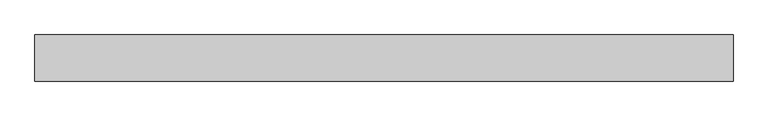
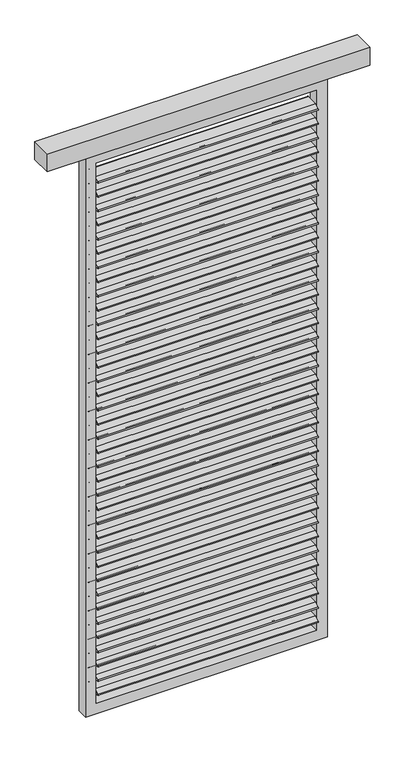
"""IFC4 building model written with IfcOpenShell, lengths in millimetres: proxy geometry."""

from ifc_helpers import new_model, si_unit, point, frame, frame_2d, origin, place, context, project, spatial, polyline, circle_curve, trimmed, segment, composite_curve, outline, extrude, source, transform, mapped, element, save


def generic_models_88b5154e(model_context):
    return source(origin(), model_context, "Body", "SweptSolid", [
        extrude(outline(polyline([(600.0, 46.0), (600.0, -34.0), (-600.0, -34.0), (-600.0, 46.0), (600.0, 46.0)])), frame((0.0, 0.0, 2250.0), z_axis=(0.0, 0.0, 1.0), x_axis=(1.0, 0.0, 0.0)), (0.0, 0.0, 1.0), 70.0),
        extrude(outline(composite_curve([segment(trimmed(circle_curve(frame_2d((30.8660408, 2150.5314678)), 3.0), [point((30.8136836, 2153.5310109))], [point((32.5436195, 2148.0443551))], False, "CARTESIAN"), True, "CONTINUOUS"), segment(polyline([(32.5436195, 2148.0443551), (17.3218392, 2137.7771346)]), True, "CONTINUOUS"), segment(trimmed(circle_curve(frame_2d((15.6442605, 2140.2642473)), 3.0), [point((17.3218392, 2137.7771346))], [point((15.6966177, 2137.2647043))], False, "CARTESIAN"), True, "CONTINUOUS"), segment(polyline([(15.6966177, 2137.2647043), (-28.3625539, 2136.4956486)]), True, "CONTINUOUS"), segment(trimmed(circle_curve(frame_2d((-28.4149111, 2139.4951916)), 3.0), [point((-28.3625539, 2136.4956486))], [point((-30.0924898, 2141.9823044))], False, "CARTESIAN"), True, "CONTINUOUS"), segment(polyline([(-30.0924898, 2141.9823044), (-14.1339931, 2152.7464463), (30.8136836, 2153.5310109)]), True, "CONTINUOUS")], self_intersect=False)), frame((-410.0, 0.0, 0.0), z_axis=(1.0, 0.0, 0.0), x_axis=(0.0, 1.0, 0.0)), (0.0, 0.0, 1.0), 820.0),
        extrude(outline(composite_curve([segment(trimmed(circle_curve(frame_2d((30.8660408, 2094.5594695)), 3.0), [point((30.8136836, 2097.5590126))], [point((32.5436195, 2092.0723568))], False, "CARTESIAN"), True, "CONTINUOUS"), segment(polyline([(32.5436195, 2092.0723568), (17.3218392, 2081.8051364)]), True, "CONTINUOUS"), segment(trimmed(circle_curve(frame_2d((15.6442605, 2084.2922491)), 3.0), [point((17.3218392, 2081.8051364))], [point((15.6966177, 2081.292706))], False, "CARTESIAN"), True, "CONTINUOUS"), segment(polyline([(15.6966177, 2081.292706), (-28.3625539, 2080.5236503)]), True, "CONTINUOUS"), segment(trimmed(circle_curve(frame_2d((-28.4149111, 2083.5231934)), 3.0), [point((-28.3625539, 2080.5236503))], [point((-30.0924898, 2086.0103061))], False, "CARTESIAN"), True, "CONTINUOUS"), segment(polyline([(-30.0924898, 2086.0103061), (-14.1339931, 2096.774448), (30.8136836, 2097.5590126)]), True, "CONTINUOUS")], self_intersect=False)), frame((-410.0, 0.0, 0.0), z_axis=(1.0, 0.0, 0.0), x_axis=(0.0, 1.0, 0.0)), (0.0, 0.0, 1.0), 820.0),
        extrude(outline(composite_curve([segment(trimmed(circle_curve(frame_2d((30.8660408, 2038.5874713)), 3.0), [point((30.8136836, 2041.5870144))], [point((32.5436195, 2036.1003586))], False, "CARTESIAN"), True, "CONTINUOUS"), segment(polyline([(32.5436195, 2036.1003586), (17.3218392, 2025.8331381)]), True, "CONTINUOUS"), segment(trimmed(circle_curve(frame_2d((15.6442605, 2028.3202508)), 3.0), [point((17.3218392, 2025.8331381))], [point((15.6966177, 2025.3207077))], False, "CARTESIAN"), True, "CONTINUOUS"), segment(polyline([(15.6966177, 2025.3207077), (-28.3625539, 2024.551652)]), True, "CONTINUOUS"), segment(trimmed(circle_curve(frame_2d((-28.4149111, 2027.5511951)), 3.0), [point((-28.3625539, 2024.551652))], [point((-30.0924898, 2030.0383078))], False, "CARTESIAN"), True, "CONTINUOUS"), segment(polyline([(-30.0924898, 2030.0383078), (-14.1339931, 2040.8024497), (30.8136836, 2041.5870144)]), True, "CONTINUOUS")], self_intersect=False)), frame((-410.0, 0.0, 0.0), z_axis=(1.0, 0.0, 0.0), x_axis=(0.0, 1.0, 0.0)), (0.0, 0.0, 1.0), 820.0),
        extrude(outline(composite_curve([segment(trimmed(circle_curve(frame_2d((30.8660408, 1982.615473)), 3.0), [point((30.8136836, 1985.6150161))], [point((32.5436195, 1980.1283603))], False, "CARTESIAN"), True, "CONTINUOUS"), segment(polyline([(32.5436195, 1980.1283603), (17.3218392, 1969.8611398)]), True, "CONTINUOUS"), segment(trimmed(circle_curve(frame_2d((15.6442605, 1972.3482526)), 3.0), [point((17.3218392, 1969.8611398))], [point((15.6966177, 1969.3487095))], False, "CARTESIAN"), True, "CONTINUOUS"), segment(polyline([(15.6966177, 1969.3487095), (-28.3625539, 1968.5796538)]), True, "CONTINUOUS"), segment(trimmed(circle_curve(frame_2d((-28.4149111, 1971.5791969)), 3.0), [point((-28.3625539, 1968.5796538))], [point((-30.0924898, 1974.0663096))], False, "CARTESIAN"), True, "CONTINUOUS"), segment(polyline([(-30.0924898, 1974.0663096), (-14.1339931, 1984.8304515), (30.8136836, 1985.6150161)]), True, "CONTINUOUS")], self_intersect=False)), frame((-410.0, 0.0, 0.0), z_axis=(1.0, 0.0, 0.0), x_axis=(0.0, 1.0, 0.0)), (0.0, 0.0, 1.0), 820.0),
        extrude(outline(composite_curve([segment(trimmed(circle_curve(frame_2d((30.8660408, 1926.6434747)), 3.0), [point((30.8136836, 1929.6430178))], [point((32.5436195, 1924.156362))], False, "CARTESIAN"), True, "CONTINUOUS"), segment(polyline([(32.5436195, 1924.156362), (17.3218392, 1913.8891416)]), True, "CONTINUOUS"), segment(trimmed(circle_curve(frame_2d((15.6442605, 1916.3762543)), 3.0), [point((17.3218392, 1913.8891416))], [point((15.6966177, 1913.3767112))], False, "CARTESIAN"), True, "CONTINUOUS"), segment(polyline([(15.6966177, 1913.3767112), (-28.3625539, 1912.6076555)]), True, "CONTINUOUS"), segment(trimmed(circle_curve(frame_2d((-28.4149111, 1915.6071986)), 3.0), [point((-28.3625539, 1912.6076555))], [point((-30.0924898, 1918.0943113))], False, "CARTESIAN"), True, "CONTINUOUS"), segment(polyline([(-30.0924898, 1918.0943113), (-14.1339931, 1928.8584532), (30.8136836, 1929.6430178)]), True, "CONTINUOUS")], self_intersect=False)), frame((-410.0, 0.0, 0.0), z_axis=(1.0, 0.0, 0.0), x_axis=(0.0, 1.0, 0.0)), (0.0, 0.0, 1.0), 820.0),
        extrude(outline(composite_curve([segment(trimmed(circle_curve(frame_2d((30.8660408, 1870.6714765)), 3.0), [point((30.8136836, 1873.6710196))], [point((32.5436195, 1868.1843638))], False, "CARTESIAN"), True, "CONTINUOUS"), segment(polyline([(32.5436195, 1868.1843638), (17.3218392, 1857.9171433)]), True, "CONTINUOUS"), segment(trimmed(circle_curve(frame_2d((15.6442605, 1860.404256)), 3.0), [point((17.3218392, 1857.9171433))], [point((15.6966177, 1857.404713))], False, "CARTESIAN"), True, "CONTINUOUS"), segment(polyline([(15.6966177, 1857.404713), (-28.3625539, 1856.6356573)]), True, "CONTINUOUS"), segment(trimmed(circle_curve(frame_2d((-28.4149111, 1859.6352003)), 3.0), [point((-28.3625539, 1856.6356573))], [point((-30.0924898, 1862.1223131))], False, "CARTESIAN"), True, "CONTINUOUS"), segment(polyline([(-30.0924898, 1862.1223131), (-14.1339931, 1872.886455), (30.8136836, 1873.6710196)]), True, "CONTINUOUS")], self_intersect=False)), frame((-410.0, 0.0, 0.0), z_axis=(1.0, 0.0, 0.0), x_axis=(0.0, 1.0, 0.0)), (0.0, 0.0, 1.0), 820.0),
        extrude(outline(composite_curve([segment(trimmed(circle_curve(frame_2d((30.8660408, 1814.6994782)), 3.0), [point((30.8136836, 1817.6990213))], [point((32.5436195, 1812.2123655))], False, "CARTESIAN"), True, "CONTINUOUS"), segment(polyline([(32.5436195, 1812.2123655), (17.3218392, 1801.9451451)]), True, "CONTINUOUS"), segment(trimmed(circle_curve(frame_2d((15.6442605, 1804.4322578)), 3.0), [point((17.3218392, 1801.9451451))], [point((15.6966177, 1801.4327147))], False, "CARTESIAN"), True, "CONTINUOUS"), segment(polyline([(15.6966177, 1801.4327147), (-28.3625539, 1800.663659)]), True, "CONTINUOUS"), segment(trimmed(circle_curve(frame_2d((-28.4149111, 1803.6632021)), 3.0), [point((-28.3625539, 1800.663659))], [point((-30.0924898, 1806.1503148))], False, "CARTESIAN"), True, "CONTINUOUS"), segment(polyline([(-30.0924898, 1806.1503148), (-14.1339931, 1816.9144567), (30.8136836, 1817.6990213)]), True, "CONTINUOUS")], self_intersect=False)), frame((-410.0, 0.0, 0.0), z_axis=(1.0, 0.0, 0.0), x_axis=(0.0, 1.0, 0.0)), (0.0, 0.0, 1.0), 820.0),
        extrude(outline(composite_curve([segment(trimmed(circle_curve(frame_2d((30.8660408, 1758.72748)), 3.0), [point((30.8136836, 1761.727023))], [point((32.5436195, 1756.2403672))], False, "CARTESIAN"), True, "CONTINUOUS"), segment(polyline([(32.5436195, 1756.2403672), (17.3218392, 1745.9731468)]), True, "CONTINUOUS"), segment(trimmed(circle_curve(frame_2d((15.6442605, 1748.4602595)), 3.0), [point((17.3218392, 1745.9731468))], [point((15.6966177, 1745.4607164))], False, "CARTESIAN"), True, "CONTINUOUS"), segment(polyline([(15.6966177, 1745.4607164), (-28.3625539, 1744.6916607)]), True, "CONTINUOUS"), segment(trimmed(circle_curve(frame_2d((-28.4149111, 1747.6912038)), 3.0), [point((-28.3625539, 1744.6916607))], [point((-30.0924898, 1750.1783165))], False, "CARTESIAN"), True, "CONTINUOUS"), segment(polyline([(-30.0924898, 1750.1783165), (-14.1339931, 1760.9424584), (30.8136836, 1761.727023)]), True, "CONTINUOUS")], self_intersect=False)), frame((-410.0, 0.0, 0.0), z_axis=(1.0, 0.0, 0.0), x_axis=(0.0, 1.0, 0.0)), (0.0, 0.0, 1.0), 820.0),
        extrude(outline(composite_curve([segment(trimmed(circle_curve(frame_2d((30.8660408, 1702.7554817)), 3.0), [point((30.8136836, 1705.7550248))], [point((32.5436195, 1700.268369))], False, "CARTESIAN"), True, "CONTINUOUS"), segment(polyline([(32.5436195, 1700.268369), (17.3218392, 1690.0011485)]), True, "CONTINUOUS"), segment(trimmed(circle_curve(frame_2d((15.6442605, 1692.4882613)), 3.0), [point((17.3218392, 1690.0011485))], [point((15.6966177, 1689.4887182))], False, "CARTESIAN"), True, "CONTINUOUS"), segment(polyline([(15.6966177, 1689.4887182), (-28.3625539, 1688.7196625)]), True, "CONTINUOUS"), segment(trimmed(circle_curve(frame_2d((-28.4149111, 1691.7192056)), 3.0), [point((-28.3625539, 1688.7196625))], [point((-30.0924898, 1694.2063183))], False, "CARTESIAN"), True, "CONTINUOUS"), segment(polyline([(-30.0924898, 1694.2063183), (-14.1339931, 1704.9704602), (30.8136836, 1705.7550248)]), True, "CONTINUOUS")], self_intersect=False)), frame((-410.0, 0.0, 0.0), z_axis=(1.0, 0.0, 0.0), x_axis=(0.0, 1.0, 0.0)), (0.0, 0.0, 1.0), 820.0),
        extrude(outline(composite_curve([segment(trimmed(circle_curve(frame_2d((30.8660408, 1646.7834834)), 3.0), [point((30.8136836, 1649.7830265))], [point((32.5436195, 1644.2963707))], False, "CARTESIAN"), True, "CONTINUOUS"), segment(polyline([(32.5436195, 1644.2963707), (17.3218392, 1634.0291503)]), True, "CONTINUOUS"), segment(trimmed(circle_curve(frame_2d((15.6442605, 1636.516263)), 3.0), [point((17.3218392, 1634.0291503))], [point((15.6966177, 1633.5167199))], False, "CARTESIAN"), True, "CONTINUOUS"), segment(polyline([(15.6966177, 1633.5167199), (-28.3625539, 1632.7476642)]), True, "CONTINUOUS"), segment(trimmed(circle_curve(frame_2d((-28.4149111, 1635.7472073)), 3.0), [point((-28.3625539, 1632.7476642))], [point((-30.0924898, 1638.23432))], False, "CARTESIAN"), True, "CONTINUOUS"), segment(polyline([(-30.0924898, 1638.23432), (-14.1339931, 1648.9984619), (30.8136836, 1649.7830265)]), True, "CONTINUOUS")], self_intersect=False)), frame((-410.0, 0.0, 0.0), z_axis=(1.0, 0.0, 0.0), x_axis=(0.0, 1.0, 0.0)), (0.0, 0.0, 1.0), 820.0),
        extrude(outline(composite_curve([segment(trimmed(circle_curve(frame_2d((30.8660408, 1590.8114852)), 3.0), [point((30.8136836, 1593.8110283))], [point((32.5436195, 1588.3243725))], False, "CARTESIAN"), True, "CONTINUOUS"), segment(polyline([(32.5436195, 1588.3243725), (17.3218392, 1578.057152)]), True, "CONTINUOUS"), segment(trimmed(circle_curve(frame_2d((15.6442605, 1580.5442647)), 3.0), [point((17.3218392, 1578.057152))], [point((15.6966177, 1577.5447216))], False, "CARTESIAN"), True, "CONTINUOUS"), segment(polyline([(15.6966177, 1577.5447216), (-28.3625539, 1576.7756659)]), True, "CONTINUOUS"), segment(trimmed(circle_curve(frame_2d((-28.4149111, 1579.775209)), 3.0), [point((-28.3625539, 1576.7756659))], [point((-30.0924898, 1582.2623218))], False, "CARTESIAN"), True, "CONTINUOUS"), segment(polyline([(-30.0924898, 1582.2623218), (-14.1339931, 1593.0264636), (30.8136836, 1593.8110283)]), True, "CONTINUOUS")], self_intersect=False)), frame((-410.0, 0.0, 0.0), z_axis=(1.0, 0.0, 0.0), x_axis=(0.0, 1.0, 0.0)), (0.0, 0.0, 1.0), 820.0),
        extrude(outline(composite_curve([segment(trimmed(circle_curve(frame_2d((30.8660408, 1534.8394869)), 3.0), [point((30.8136836, 1537.83903))], [point((32.5436195, 1532.3523742))], False, "CARTESIAN"), True, "CONTINUOUS"), segment(polyline([(32.5436195, 1532.3523742), (17.3218392, 1522.0851538)]), True, "CONTINUOUS"), segment(trimmed(circle_curve(frame_2d((15.6442605, 1524.5722665)), 3.0), [point((17.3218392, 1522.0851538))], [point((15.6966177, 1521.5727234))], False, "CARTESIAN"), True, "CONTINUOUS"), segment(polyline([(15.6966177, 1521.5727234), (-28.3625539, 1520.8036677)]), True, "CONTINUOUS"), segment(trimmed(circle_curve(frame_2d((-28.4149111, 1523.8032108)), 3.0), [point((-28.3625539, 1520.8036677))], [point((-30.0924898, 1526.2903235))], False, "CARTESIAN"), True, "CONTINUOUS"), segment(polyline([(-30.0924898, 1526.2903235), (-14.1339931, 1537.0544654), (30.8136836, 1537.83903)]), True, "CONTINUOUS")], self_intersect=False)), frame((-410.0, 0.0, 0.0), z_axis=(1.0, 0.0, 0.0), x_axis=(0.0, 1.0, 0.0)), (0.0, 0.0, 1.0), 820.0),
        extrude(outline(composite_curve([segment(trimmed(circle_curve(frame_2d((30.8660408, 1478.8674887)), 3.0), [point((30.8136836, 1481.8670317))], [point((32.5436195, 1476.3803759))], False, "CARTESIAN"), True, "CONTINUOUS"), segment(polyline([(32.5436195, 1476.3803759), (17.3218392, 1466.1131555)]), True, "CONTINUOUS"), segment(trimmed(circle_curve(frame_2d((15.6442605, 1468.6002682)), 3.0), [point((17.3218392, 1466.1131555))], [point((15.6966177, 1465.6007251))], False, "CARTESIAN"), True, "CONTINUOUS"), segment(polyline([(15.6966177, 1465.6007251), (-28.3625539, 1464.8316694)]), True, "CONTINUOUS"), segment(trimmed(circle_curve(frame_2d((-28.4149111, 1467.8312125)), 3.0), [point((-28.3625539, 1464.8316694))], [point((-30.0924898, 1470.3183252))], False, "CARTESIAN"), True, "CONTINUOUS"), segment(polyline([(-30.0924898, 1470.3183252), (-14.1339931, 1481.0824671), (30.8136836, 1481.8670317)]), True, "CONTINUOUS")], self_intersect=False)), frame((-410.0, 0.0, 0.0), z_axis=(1.0, 0.0, 0.0), x_axis=(0.0, 1.0, 0.0)), (0.0, 0.0, 1.0), 820.0),
        extrude(outline(composite_curve([segment(trimmed(circle_curve(frame_2d((30.8660408, 1422.8954904)), 3.0), [point((30.8136836, 1425.8950335))], [point((32.5436195, 1420.4083777))], False, "CARTESIAN"), True, "CONTINUOUS"), segment(polyline([(32.5436195, 1420.4083777), (17.3218392, 1410.1411572)]), True, "CONTINUOUS"), segment(trimmed(circle_curve(frame_2d((15.6442605, 1412.62827)), 3.0), [point((17.3218392, 1410.1411572))], [point((15.6966177, 1409.6287269))], False, "CARTESIAN"), True, "CONTINUOUS"), segment(polyline([(15.6966177, 1409.6287269), (-28.3625539, 1408.8596712)]), True, "CONTINUOUS"), segment(trimmed(circle_curve(frame_2d((-28.4149111, 1411.8592143)), 3.0), [point((-28.3625539, 1408.8596712))], [point((-30.0924898, 1414.346327))], False, "CARTESIAN"), True, "CONTINUOUS"), segment(polyline([(-30.0924898, 1414.346327), (-14.1339931, 1425.1104689), (30.8136836, 1425.8950335)]), True, "CONTINUOUS")], self_intersect=False)), frame((-410.0, 0.0, 0.0), z_axis=(1.0, 0.0, 0.0), x_axis=(0.0, 1.0, 0.0)), (0.0, 0.0, 1.0), 820.0),
        extrude(outline(composite_curve([segment(trimmed(circle_curve(frame_2d((30.8660408, 1366.9234921)), 3.0), [point((30.8136836, 1369.9230352))], [point((32.5436195, 1364.4363794))], False, "CARTESIAN"), True, "CONTINUOUS"), segment(polyline([(32.5436195, 1364.4363794), (17.3218392, 1354.169159)]), True, "CONTINUOUS"), segment(trimmed(circle_curve(frame_2d((15.6442605, 1356.6562717)), 3.0), [point((17.3218392, 1354.169159))], [point((15.6966177, 1353.6567286))], False, "CARTESIAN"), True, "CONTINUOUS"), segment(polyline([(15.6966177, 1353.6567286), (-28.3625539, 1352.8876729)]), True, "CONTINUOUS"), segment(trimmed(circle_curve(frame_2d((-28.4149111, 1355.887216)), 3.0), [point((-28.3625539, 1352.8876729))], [point((-30.0924898, 1358.3743287))], False, "CARTESIAN"), True, "CONTINUOUS"), segment(polyline([(-30.0924898, 1358.3743287), (-14.1339931, 1369.1384706), (30.8136836, 1369.9230352)]), True, "CONTINUOUS")], self_intersect=False)), frame((-410.0, 0.0, 0.0), z_axis=(1.0, 0.0, 0.0), x_axis=(0.0, 1.0, 0.0)), (0.0, 0.0, 1.0), 820.0),
        extrude(outline(composite_curve([segment(trimmed(circle_curve(frame_2d((30.8660408, 1310.9514939)), 3.0), [point((30.8136836, 1313.951037))], [point((32.5436195, 1308.4643812))], False, "CARTESIAN"), True, "CONTINUOUS"), segment(polyline([(32.5436195, 1308.4643812), (17.3218392, 1298.1971607)]), True, "CONTINUOUS"), segment(trimmed(circle_curve(frame_2d((15.6442605, 1300.6842734)), 3.0), [point((17.3218392, 1298.1971607))], [point((15.6966177, 1297.6847303))], False, "CARTESIAN"), True, "CONTINUOUS"), segment(polyline([(15.6966177, 1297.6847303), (-28.3625539, 1296.9156746)]), True, "CONTINUOUS"), segment(trimmed(circle_curve(frame_2d((-28.4149111, 1299.9152177)), 3.0), [point((-28.3625539, 1296.9156746))], [point((-30.0924898, 1302.4023304))], False, "CARTESIAN"), True, "CONTINUOUS"), segment(polyline([(-30.0924898, 1302.4023304), (-14.1339931, 1313.1664723), (30.8136836, 1313.951037)]), True, "CONTINUOUS")], self_intersect=False)), frame((-410.0, 0.0, 0.0), z_axis=(1.0, 0.0, 0.0), x_axis=(0.0, 1.0, 0.0)), (0.0, 0.0, 1.0), 820.0),
        extrude(outline(composite_curve([segment(trimmed(circle_curve(frame_2d((30.8660408, 1254.9794956)), 3.0), [point((30.8136836, 1257.9790387))], [point((32.5436195, 1252.4923829))], False, "CARTESIAN"), True, "CONTINUOUS"), segment(polyline([(32.5436195, 1252.4923829), (17.3218392, 1242.2251625)]), True, "CONTINUOUS"), segment(trimmed(circle_curve(frame_2d((15.6442605, 1244.7122752)), 3.0), [point((17.3218392, 1242.2251625))], [point((15.6966177, 1241.7127321))], False, "CARTESIAN"), True, "CONTINUOUS"), segment(polyline([(15.6966177, 1241.7127321), (-28.3625539, 1240.9436764)]), True, "CONTINUOUS"), segment(trimmed(circle_curve(frame_2d((-28.4149111, 1243.9432195)), 3.0), [point((-28.3625539, 1240.9436764))], [point((-30.0924898, 1246.4303322))], False, "CARTESIAN"), True, "CONTINUOUS"), segment(polyline([(-30.0924898, 1246.4303322), (-14.1339931, 1257.1944741), (30.8136836, 1257.9790387)]), True, "CONTINUOUS")], self_intersect=False)), frame((-410.0, 0.0, 0.0), z_axis=(1.0, 0.0, 0.0), x_axis=(0.0, 1.0, 0.0)), (0.0, 0.0, 1.0), 820.0),
        extrude(outline(composite_curve([segment(trimmed(circle_curve(frame_2d((30.8660408, 1199.0074974)), 3.0), [point((30.8136836, 1202.0070404))], [point((32.5436195, 1196.5203846))], False, "CARTESIAN"), True, "CONTINUOUS"), segment(polyline([(32.5436195, 1196.5203846), (17.3218392, 1186.2531642)]), True, "CONTINUOUS"), segment(trimmed(circle_curve(frame_2d((15.6442605, 1188.7402769)), 3.0), [point((17.3218392, 1186.2531642))], [point((15.6966177, 1185.7407338))], False, "CARTESIAN"), True, "CONTINUOUS"), segment(polyline([(15.6966177, 1185.7407338), (-28.3625539, 1184.9716781)]), True, "CONTINUOUS"), segment(trimmed(circle_curve(frame_2d((-28.4149111, 1187.9712212)), 3.0), [point((-28.3625539, 1184.9716781))], [point((-30.0924898, 1190.4583339))], False, "CARTESIAN"), True, "CONTINUOUS"), segment(polyline([(-30.0924898, 1190.4583339), (-14.1339931, 1201.2224758), (30.8136836, 1202.0070404)]), True, "CONTINUOUS")], self_intersect=False)), frame((-410.0, 0.0, 0.0), z_axis=(1.0, 0.0, 0.0), x_axis=(0.0, 1.0, 0.0)), (0.0, 0.0, 1.0), 820.0),
        extrude(outline(composite_curve([segment(trimmed(circle_curve(frame_2d((30.8660408, 1143.0354991)), 3.0), [point((30.8136836, 1146.0350422))], [point((32.5436195, 1140.5483864))], False, "CARTESIAN"), True, "CONTINUOUS"), segment(polyline([(32.5436195, 1140.5483864), (17.3218392, 1130.2811659)]), True, "CONTINUOUS"), segment(trimmed(circle_curve(frame_2d((15.6442605, 1132.7682786)), 3.0), [point((17.3218392, 1130.2811659))], [point((15.6966177, 1129.7687356))], False, "CARTESIAN"), True, "CONTINUOUS"), segment(polyline([(15.6966177, 1129.7687356), (-28.3625539, 1128.9996799)]), True, "CONTINUOUS"), segment(trimmed(circle_curve(frame_2d((-28.4149111, 1131.9992229)), 3.0), [point((-28.3625539, 1128.9996799))], [point((-30.0924898, 1134.4863357))], False, "CARTESIAN"), True, "CONTINUOUS"), segment(polyline([(-30.0924898, 1134.4863357), (-14.1339931, 1145.2504776), (30.8136836, 1146.0350422)]), True, "CONTINUOUS")], self_intersect=False)), frame((-410.0, 0.0, 0.0), z_axis=(1.0, 0.0, 0.0), x_axis=(0.0, 1.0, 0.0)), (0.0, 0.0, 1.0), 820.0),
        extrude(outline(composite_curve([segment(trimmed(circle_curve(frame_2d((30.8660408, 1087.0635008)), 3.0), [point((30.8136836, 1090.0630439))], [point((32.5436195, 1084.5763881))], False, "CARTESIAN"), True, "CONTINUOUS"), segment(polyline([(32.5436195, 1084.5763881), (17.3218392, 1074.3091677)]), True, "CONTINUOUS"), segment(trimmed(circle_curve(frame_2d((15.6442605, 1076.7962804)), 3.0), [point((17.3218392, 1074.3091677))], [point((15.6966177, 1073.7967373))], False, "CARTESIAN"), True, "CONTINUOUS"), segment(polyline([(15.6966177, 1073.7967373), (-28.3625539, 1073.0276816)]), True, "CONTINUOUS"), segment(trimmed(circle_curve(frame_2d((-28.4149111, 1076.0272247)), 3.0), [point((-28.3625539, 1073.0276816))], [point((-30.0924898, 1078.5143374))], False, "CARTESIAN"), True, "CONTINUOUS"), segment(polyline([(-30.0924898, 1078.5143374), (-14.1339931, 1089.2784793), (30.8136836, 1090.0630439)]), True, "CONTINUOUS")], self_intersect=False)), frame((-410.0, 0.0, 0.0), z_axis=(1.0, 0.0, 0.0), x_axis=(0.0, 1.0, 0.0)), (0.0, 0.0, 1.0), 820.0),
        extrude(outline(composite_curve([segment(trimmed(circle_curve(frame_2d((30.8660408, 1031.0915026)), 3.0), [point((30.8136836, 1034.0910457))], [point((32.5436195, 1028.6043898))], False, "CARTESIAN"), True, "CONTINUOUS"), segment(polyline([(32.5436195, 1028.6043898), (17.3218392, 1018.3371694)]), True, "CONTINUOUS"), segment(trimmed(circle_curve(frame_2d((15.6442605, 1020.8242821)), 3.0), [point((17.3218392, 1018.3371694))], [point((15.6966177, 1017.824739))], False, "CARTESIAN"), True, "CONTINUOUS"), segment(polyline([(15.6966177, 1017.824739), (-28.3625539, 1017.0556833)]), True, "CONTINUOUS"), segment(trimmed(circle_curve(frame_2d((-28.4149111, 1020.0552264)), 3.0), [point((-28.3625539, 1017.0556833))], [point((-30.0924898, 1022.5423391))], False, "CARTESIAN"), True, "CONTINUOUS"), segment(polyline([(-30.0924898, 1022.5423391), (-14.1339931, 1033.306481), (30.8136836, 1034.0910457)]), True, "CONTINUOUS")], self_intersect=False)), frame((-410.0, 0.0, 0.0), z_axis=(1.0, 0.0, 0.0), x_axis=(0.0, 1.0, 0.0)), (0.0, 0.0, 1.0), 820.0),
        extrude(outline(composite_curve([segment(trimmed(circle_curve(frame_2d((30.8660408, 975.1195043)), 3.0), [point((30.8136836, 978.1190474))], [point((32.5436195, 972.6323916))], False, "CARTESIAN"), True, "CONTINUOUS"), segment(polyline([(32.5436195, 972.6323916), (17.3218392, 962.3651711)]), True, "CONTINUOUS"), segment(trimmed(circle_curve(frame_2d((15.6442605, 964.8522839)), 3.0), [point((17.3218392, 962.3651711))], [point((15.6966177, 961.8527408))], False, "CARTESIAN"), True, "CONTINUOUS"), segment(polyline([(15.6966177, 961.8527408), (-28.3625539, 961.0836851)]), True, "CONTINUOUS"), segment(trimmed(circle_curve(frame_2d((-28.4149111, 964.0832282)), 3.0), [point((-28.3625539, 961.0836851))], [point((-30.0924898, 966.5703409))], False, "CARTESIAN"), True, "CONTINUOUS"), segment(polyline([(-30.0924898, 966.5703409), (-14.1339931, 977.3344828), (30.8136836, 978.1190474)]), True, "CONTINUOUS")], self_intersect=False)), frame((-410.0, 0.0, 0.0), z_axis=(1.0, 0.0, 0.0), x_axis=(0.0, 1.0, 0.0)), (0.0, 0.0, 1.0), 820.0),
        extrude(outline(composite_curve([segment(trimmed(circle_curve(frame_2d((30.8660408, 919.147506)), 3.0), [point((30.8136836, 922.1470491))], [point((32.5436195, 916.6603933))], False, "CARTESIAN"), True, "CONTINUOUS"), segment(polyline([(32.5436195, 916.6603933), (17.3218392, 906.3931729)]), True, "CONTINUOUS"), segment(trimmed(circle_curve(frame_2d((15.6442605, 908.8802856)), 3.0), [point((17.3218392, 906.3931729))], [point((15.6966177, 905.8807425))], False, "CARTESIAN"), True, "CONTINUOUS"), segment(polyline([(15.6966177, 905.8807425), (-28.3625539, 905.1116868)]), True, "CONTINUOUS"), segment(trimmed(circle_curve(frame_2d((-28.4149111, 908.1112299)), 3.0), [point((-28.3625539, 905.1116868))], [point((-30.0924898, 910.5983426))], False, "CARTESIAN"), True, "CONTINUOUS"), segment(polyline([(-30.0924898, 910.5983426), (-14.1339931, 921.3624845), (30.8136836, 922.1470491)]), True, "CONTINUOUS")], self_intersect=False)), frame((-410.0, 0.0, 0.0), z_axis=(1.0, 0.0, 0.0), x_axis=(0.0, 1.0, 0.0)), (0.0, 0.0, 1.0), 820.0),
        extrude(outline(composite_curve([segment(trimmed(circle_curve(frame_2d((30.8660408, 863.1755078)), 3.0), [point((30.8136836, 866.1750509))], [point((32.5436195, 860.6883951))], False, "CARTESIAN"), True, "CONTINUOUS"), segment(polyline([(32.5436195, 860.6883951), (17.3218392, 850.4211746)]), True, "CONTINUOUS"), segment(trimmed(circle_curve(frame_2d((15.6442605, 852.9082873)), 3.0), [point((17.3218392, 850.4211746))], [point((15.6966177, 849.9087443))], False, "CARTESIAN"), True, "CONTINUOUS"), segment(polyline([(15.6966177, 849.9087443), (-28.3625539, 849.1396886)]), True, "CONTINUOUS"), segment(trimmed(circle_curve(frame_2d((-28.4149111, 852.1392316)), 3.0), [point((-28.3625539, 849.1396886))], [point((-30.0924898, 854.6263444))], False, "CARTESIAN"), True, "CONTINUOUS"), segment(polyline([(-30.0924898, 854.6263444), (-14.1339931, 865.3904863), (30.8136836, 866.1750509)]), True, "CONTINUOUS")], self_intersect=False)), frame((-410.0, 0.0, 0.0), z_axis=(1.0, 0.0, 0.0), x_axis=(0.0, 1.0, 0.0)), (0.0, 0.0, 1.0), 820.0),
        extrude(outline(composite_curve([segment(trimmed(circle_curve(frame_2d((30.8660408, 807.2035095)), 3.0), [point((30.8136836, 810.2030526))], [point((32.5436195, 804.7163968))], False, "CARTESIAN"), True, "CONTINUOUS"), segment(polyline([(32.5436195, 804.7163968), (17.3218392, 794.4491764)]), True, "CONTINUOUS"), segment(trimmed(circle_curve(frame_2d((15.6442605, 796.9362891)), 3.0), [point((17.3218392, 794.4491764))], [point((15.6966177, 793.936746))], False, "CARTESIAN"), True, "CONTINUOUS"), segment(polyline([(15.6966177, 793.936746), (-28.3625539, 793.1676903)]), True, "CONTINUOUS"), segment(trimmed(circle_curve(frame_2d((-28.4149111, 796.1672334)), 3.0), [point((-28.3625539, 793.1676903))], [point((-30.0924898, 798.6543461))], False, "CARTESIAN"), True, "CONTINUOUS"), segment(polyline([(-30.0924898, 798.6543461), (-14.1339931, 809.418488), (30.8136836, 810.2030526)]), True, "CONTINUOUS")], self_intersect=False)), frame((-410.0, 0.0, 0.0), z_axis=(1.0, 0.0, 0.0), x_axis=(0.0, 1.0, 0.0)), (0.0, 0.0, 1.0), 820.0),
        extrude(outline(composite_curve([segment(trimmed(circle_curve(frame_2d((30.8660408, 751.2315113)), 3.0), [point((30.8136836, 754.2310543))], [point((32.5436195, 748.7443985))], False, "CARTESIAN"), True, "CONTINUOUS"), segment(polyline([(32.5436195, 748.7443985), (17.3218392, 738.4771781)]), True, "CONTINUOUS"), segment(trimmed(circle_curve(frame_2d((15.6442605, 740.9642908)), 3.0), [point((17.3218392, 738.4771781))], [point((15.6966177, 737.9647477))], False, "CARTESIAN"), True, "CONTINUOUS"), segment(polyline([(15.6966177, 737.9647477), (-28.3625539, 737.195692)]), True, "CONTINUOUS"), segment(trimmed(circle_curve(frame_2d((-28.4149111, 740.1952351)), 3.0), [point((-28.3625539, 737.195692))], [point((-30.0924898, 742.6823478))], False, "CARTESIAN"), True, "CONTINUOUS"), segment(polyline([(-30.0924898, 742.6823478), (-14.1339931, 753.4464897), (30.8136836, 754.2310543)]), True, "CONTINUOUS")], self_intersect=False)), frame((-410.0, 0.0, 0.0), z_axis=(1.0, 0.0, 0.0), x_axis=(0.0, 1.0, 0.0)), (0.0, 0.0, 1.0), 820.0),
        extrude(outline(composite_curve([segment(trimmed(circle_curve(frame_2d((30.8660408, 695.259513)), 3.0), [point((30.8136836, 698.2590561))], [point((32.5436195, 692.7724003))], False, "CARTESIAN"), True, "CONTINUOUS"), segment(polyline([(32.5436195, 692.7724003), (17.3218392, 682.5051798)]), True, "CONTINUOUS"), segment(trimmed(circle_curve(frame_2d((15.6442605, 684.9922926)), 3.0), [point((17.3218392, 682.5051798))], [point((15.6966177, 681.9927495))], False, "CARTESIAN"), True, "CONTINUOUS"), segment(polyline([(15.6966177, 681.9927495), (-28.3625539, 681.2236938)]), True, "CONTINUOUS"), segment(trimmed(circle_curve(frame_2d((-28.4149111, 684.2232369)), 3.0), [point((-28.3625539, 681.2236938))], [point((-30.0924898, 686.7103496))], False, "CARTESIAN"), True, "CONTINUOUS"), segment(polyline([(-30.0924898, 686.7103496), (-14.1339931, 697.4744915), (30.8136836, 698.2590561)]), True, "CONTINUOUS")], self_intersect=False)), frame((-410.0, 0.0, 0.0), z_axis=(1.0, 0.0, 0.0), x_axis=(0.0, 1.0, 0.0)), (0.0, 0.0, 1.0), 820.0),
        extrude(outline(composite_curve([segment(trimmed(circle_curve(frame_2d((30.8660408, 639.2875147)), 3.0), [point((30.8136836, 642.2870578))], [point((32.5436195, 636.800402))], False, "CARTESIAN"), True, "CONTINUOUS"), segment(polyline([(32.5436195, 636.800402), (17.3218392, 626.5331816)]), True, "CONTINUOUS"), segment(trimmed(circle_curve(frame_2d((15.6442605, 629.0202943)), 3.0), [point((17.3218392, 626.5331816))], [point((15.6966177, 626.0207512))], False, "CARTESIAN"), True, "CONTINUOUS"), segment(polyline([(15.6966177, 626.0207512), (-28.3625539, 625.2516955)]), True, "CONTINUOUS"), segment(trimmed(circle_curve(frame_2d((-28.4149111, 628.2512386)), 3.0), [point((-28.3625539, 625.2516955))], [point((-30.0924898, 630.7383513))], False, "CARTESIAN"), True, "CONTINUOUS"), segment(polyline([(-30.0924898, 630.7383513), (-14.1339931, 641.5024932), (30.8136836, 642.2870578)]), True, "CONTINUOUS")], self_intersect=False)), frame((-410.0, 0.0, 0.0), z_axis=(1.0, 0.0, 0.0), x_axis=(0.0, 1.0, 0.0)), (0.0, 0.0, 1.0), 820.0),
        extrude(outline(composite_curve([segment(trimmed(circle_curve(frame_2d((30.8660408, 583.3155165)), 3.0), [point((30.8136836, 586.3150596))], [point((32.5436195, 580.8284038))], False, "CARTESIAN"), True, "CONTINUOUS"), segment(polyline([(32.5436195, 580.8284038), (17.3218392, 570.5611833)]), True, "CONTINUOUS"), segment(trimmed(circle_curve(frame_2d((15.6442605, 573.048296)), 3.0), [point((17.3218392, 570.5611833))], [point((15.6966177, 570.0487529))], False, "CARTESIAN"), True, "CONTINUOUS"), segment(polyline([(15.6966177, 570.0487529), (-28.3625539, 569.2796972)]), True, "CONTINUOUS"), segment(trimmed(circle_curve(frame_2d((-28.4149111, 572.2792403)), 3.0), [point((-28.3625539, 569.2796972))], [point((-30.0924898, 574.766353))], False, "CARTESIAN"), True, "CONTINUOUS"), segment(polyline([(-30.0924898, 574.766353), (-14.1339931, 585.5304949), (30.8136836, 586.3150596)]), True, "CONTINUOUS")], self_intersect=False)), frame((-410.0, 0.0, 0.0), z_axis=(1.0, 0.0, 0.0), x_axis=(0.0, 1.0, 0.0)), (0.0, 0.0, 1.0), 820.0),
        extrude(outline(composite_curve([segment(trimmed(circle_curve(frame_2d((30.8660408, 527.3435182)), 3.0), [point((30.8136836, 530.3430613))], [point((32.5436195, 524.8564055))], False, "CARTESIAN"), True, "CONTINUOUS"), segment(polyline([(32.5436195, 524.8564055), (17.3218392, 514.5891851)]), True, "CONTINUOUS"), segment(trimmed(circle_curve(frame_2d((15.6442605, 517.0762978)), 3.0), [point((17.3218392, 514.5891851))], [point((15.6966177, 514.0767547))], False, "CARTESIAN"), True, "CONTINUOUS"), segment(polyline([(15.6966177, 514.0767547), (-28.3625539, 513.307699)]), True, "CONTINUOUS"), segment(trimmed(circle_curve(frame_2d((-28.4149111, 516.3072421)), 3.0), [point((-28.3625539, 513.307699))], [point((-30.0924898, 518.7943548))], False, "CARTESIAN"), True, "CONTINUOUS"), segment(polyline([(-30.0924898, 518.7943548), (-14.1339931, 529.5584967), (30.8136836, 530.3430613)]), True, "CONTINUOUS")], self_intersect=False)), frame((-410.0, 0.0, 0.0), z_axis=(1.0, 0.0, 0.0), x_axis=(0.0, 1.0, 0.0)), (0.0, 0.0, 1.0), 820.0),
        extrude(outline(composite_curve([segment(trimmed(circle_curve(frame_2d((30.8660408, 471.37152)), 3.0), [point((30.8136836, 474.371063))], [point((32.5436195, 468.8844072))], False, "CARTESIAN"), True, "CONTINUOUS"), segment(polyline([(32.5436195, 468.8844072), (17.3218392, 458.6171868)]), True, "CONTINUOUS"), segment(trimmed(circle_curve(frame_2d((15.6442605, 461.1042995)), 3.0), [point((17.3218392, 458.6171868))], [point((15.6966177, 458.1047564))], False, "CARTESIAN"), True, "CONTINUOUS"), segment(polyline([(15.6966177, 458.1047564), (-28.3625539, 457.3357007)]), True, "CONTINUOUS"), segment(trimmed(circle_curve(frame_2d((-28.4149111, 460.3352438)), 3.0), [point((-28.3625539, 457.3357007))], [point((-30.0924898, 462.8223565))], False, "CARTESIAN"), True, "CONTINUOUS"), segment(polyline([(-30.0924898, 462.8223565), (-14.1339931, 473.5864984), (30.8136836, 474.371063)]), True, "CONTINUOUS")], self_intersect=False)), frame((-410.0, 0.0, 0.0), z_axis=(1.0, 0.0, 0.0), x_axis=(0.0, 1.0, 0.0)), (0.0, 0.0, 1.0), 820.0),
        extrude(outline(composite_curve([segment(trimmed(circle_curve(frame_2d((30.8660408, 415.3995217)), 3.0), [point((30.8136836, 418.3990648))], [point((32.5436195, 412.912409))], False, "CARTESIAN"), True, "CONTINUOUS"), segment(polyline([(32.5436195, 412.912409), (17.3218392, 402.6451885)]), True, "CONTINUOUS"), segment(trimmed(circle_curve(frame_2d((15.6442605, 405.1323012)), 3.0), [point((17.3218392, 402.6451885))], [point((15.6966177, 402.1327582))], False, "CARTESIAN"), True, "CONTINUOUS"), segment(polyline([(15.6966177, 402.1327582), (-28.3625539, 401.3637025)]), True, "CONTINUOUS"), segment(trimmed(circle_curve(frame_2d((-28.4149111, 404.3632455)), 3.0), [point((-28.3625539, 401.3637025))], [point((-30.0924898, 406.8503583))], False, "CARTESIAN"), True, "CONTINUOUS"), segment(polyline([(-30.0924898, 406.8503583), (-14.1339931, 417.6145002), (30.8136836, 418.3990648)]), True, "CONTINUOUS")], self_intersect=False)), frame((-410.0, 0.0, 0.0), z_axis=(1.0, 0.0, 0.0), x_axis=(0.0, 1.0, 0.0)), (0.0, 0.0, 1.0), 820.0),
        extrude(outline(composite_curve([segment(trimmed(circle_curve(frame_2d((30.8660408, 359.4275234)), 3.0), [point((30.8136836, 362.4270665))], [point((32.5436195, 356.9404107))], False, "CARTESIAN"), True, "CONTINUOUS"), segment(polyline([(32.5436195, 356.9404107), (17.3218392, 346.6731903)]), True, "CONTINUOUS"), segment(trimmed(circle_curve(frame_2d((15.6442605, 349.160303)), 3.0), [point((17.3218392, 346.6731903))], [point((15.6966177, 346.1607599))], False, "CARTESIAN"), True, "CONTINUOUS"), segment(polyline([(15.6966177, 346.1607599), (-28.3625539, 345.3917042)]), True, "CONTINUOUS"), segment(trimmed(circle_curve(frame_2d((-28.4149111, 348.3912473)), 3.0), [point((-28.3625539, 345.3917042))], [point((-30.0924898, 350.87836))], False, "CARTESIAN"), True, "CONTINUOUS"), segment(polyline([(-30.0924898, 350.87836), (-14.1339931, 361.6425019), (30.8136836, 362.4270665)]), True, "CONTINUOUS")], self_intersect=False)), frame((-410.0, 0.0, 0.0), z_axis=(1.0, 0.0, 0.0), x_axis=(0.0, 1.0, 0.0)), (0.0, 0.0, 1.0), 820.0),
        extrude(outline(composite_curve([segment(trimmed(circle_curve(frame_2d((30.8660408, 303.4555252)), 3.0), [point((30.8136836, 306.4550683))], [point((32.5436195, 300.9684125))], False, "CARTESIAN"), True, "CONTINUOUS"), segment(polyline([(32.5436195, 300.9684125), (17.3218392, 290.701192)]), True, "CONTINUOUS"), segment(trimmed(circle_curve(frame_2d((15.6442605, 293.1883047)), 3.0), [point((17.3218392, 290.701192))], [point((15.6966177, 290.1887616))], False, "CARTESIAN"), True, "CONTINUOUS"), segment(polyline([(15.6966177, 290.1887616), (-28.3625539, 289.4197059)]), True, "CONTINUOUS"), segment(trimmed(circle_curve(frame_2d((-28.4149111, 292.419249)), 3.0), [point((-28.3625539, 289.4197059))], [point((-30.0924898, 294.9063617))], False, "CARTESIAN"), True, "CONTINUOUS"), segment(polyline([(-30.0924898, 294.9063617), (-14.1339931, 305.6705036), (30.8136836, 306.4550683)]), True, "CONTINUOUS")], self_intersect=False)), frame((-410.0, 0.0, 0.0), z_axis=(1.0, 0.0, 0.0), x_axis=(0.0, 1.0, 0.0)), (0.0, 0.0, 1.0), 820.0),
        extrude(outline(composite_curve([segment(trimmed(circle_curve(frame_2d((30.8660408, 247.4835269)), 3.0), [point((30.8136836, 250.48307))], [point((32.5436195, 244.9964142))], False, "CARTESIAN"), True, "CONTINUOUS"), segment(polyline([(32.5436195, 244.9964142), (17.3218392, 234.7291937)]), True, "CONTINUOUS"), segment(trimmed(circle_curve(frame_2d((15.6442605, 237.2163065)), 3.0), [point((17.3218392, 234.7291937))], [point((15.6966177, 234.2167634))], False, "CARTESIAN"), True, "CONTINUOUS"), segment(polyline([(15.6966177, 234.2167634), (-28.3625539, 233.4477077)]), True, "CONTINUOUS"), segment(trimmed(circle_curve(frame_2d((-28.4149111, 236.4472508)), 3.0), [point((-28.3625539, 233.4477077))], [point((-30.0924898, 238.9343635))], False, "CARTESIAN"), True, "CONTINUOUS"), segment(polyline([(-30.0924898, 238.9343635), (-14.1339931, 249.6985054), (30.8136836, 250.48307)]), True, "CONTINUOUS")], self_intersect=False)), frame((-410.0, 0.0, 0.0), z_axis=(1.0, 0.0, 0.0), x_axis=(0.0, 1.0, 0.0)), (0.0, 0.0, 1.0), 820.0),
        extrude(outline(composite_curve([segment(trimmed(circle_curve(frame_2d((30.8660408, 191.5115286)), 3.0), [point((30.8136836, 194.5110717))], [point((32.5436195, 189.0244159))], False, "CARTESIAN"), True, "CONTINUOUS"), segment(polyline([(32.5436195, 189.0244159), (17.3218392, 178.7571955)]), True, "CONTINUOUS"), segment(trimmed(circle_curve(frame_2d((15.6442605, 181.2443082)), 3.0), [point((17.3218392, 178.7571955))], [point((15.6966177, 178.2447651))], False, "CARTESIAN"), True, "CONTINUOUS"), segment(polyline([(15.6966177, 178.2447651), (-28.3625539, 177.4757094)]), True, "CONTINUOUS"), segment(trimmed(circle_curve(frame_2d((-28.4149111, 180.4752525)), 3.0), [point((-28.3625539, 177.4757094))], [point((-30.0924898, 182.9623652))], False, "CARTESIAN"), True, "CONTINUOUS"), segment(polyline([(-30.0924898, 182.9623652), (-14.1339931, 193.7265071), (30.8136836, 194.5110717)]), True, "CONTINUOUS")], self_intersect=False)), frame((-410.0, 0.0, 0.0), z_axis=(1.0, 0.0, 0.0), x_axis=(0.0, 1.0, 0.0)), (0.0, 0.0, 1.0), 820.0),
        extrude(outline(composite_curve([segment(trimmed(circle_curve(frame_2d((30.8660408, 135.5395304)), 3.0), [point((30.8136836, 138.5390735))], [point((32.5436195, 133.0524177))], False, "CARTESIAN"), True, "CONTINUOUS"), segment(polyline([(32.5436195, 133.0524177), (17.3218392, 122.7851972)]), True, "CONTINUOUS"), segment(trimmed(circle_curve(frame_2d((15.6442605, 125.2723099)), 3.0), [point((17.3218392, 122.7851972))], [point((15.6966177, 122.2727669))], False, "CARTESIAN"), True, "CONTINUOUS"), segment(polyline([(15.6966177, 122.2727669), (-28.3625539, 121.5037112)]), True, "CONTINUOUS"), segment(trimmed(circle_curve(frame_2d((-28.4149111, 124.5032542)), 3.0), [point((-28.3625539, 121.5037112))], [point((-30.0924898, 126.990367))], False, "CARTESIAN"), True, "CONTINUOUS"), segment(polyline([(-30.0924898, 126.990367), (-14.1339931, 137.7545089), (30.8136836, 138.5390735)]), True, "CONTINUOUS")], self_intersect=False)), frame((-410.0, 0.0, 0.0), z_axis=(1.0, 0.0, 0.0), x_axis=(0.0, 1.0, 0.0)), (0.0, 0.0, 1.0), 820.0),
        extrude(outline(polyline([(2250.0, -450.0), (45.0, -450.0), (45.0, 450.0), (2250.0, 450.0), (2250.0, -450.0)]), holes=[polyline([(2210.0, 410.0), (85.0, 410.0), (85.0, -410.0), (2210.0, -410.0), (2210.0, 410.0)])]), frame((0.0, -20.0, 0.0), z_axis=(0.0, 1.0, 0.0), x_axis=(0.0, 0.0, 1.0)), (0.0, 0.0, 1.0), 40.0),
    ])


if __name__ == "__main__":
    model = new_model("IFC4")
    model_context = context("Model", 3, world=origin())
    ifc_project = project(units=[si_unit("LENGTHUNIT", "METRE", prefix="MILLI")], contexts=[model_context])
    site = spatial("IfcSite", under=ifc_project)
    building = spatial("IfcBuilding", under=site)
    placement = place(None, origin())
    generic_models_shape = generic_models_88b5154e(model_context)
    element("IfcBuildingElementProxy", 1, Name="Generic Models", at=placement, inside=building, context=model_context, shape_type="MappedRepresentation", body=[
        mapped(generic_models_shape, transform((0.0, 0.0, 0.0), x_axis=(1.0, 0.0, 0.0), y_axis=(0.0, 1.0, 0.0), z_axis=(0.0, 0.0, 1.0))),
    ])
    save(model, "model.ifc")
